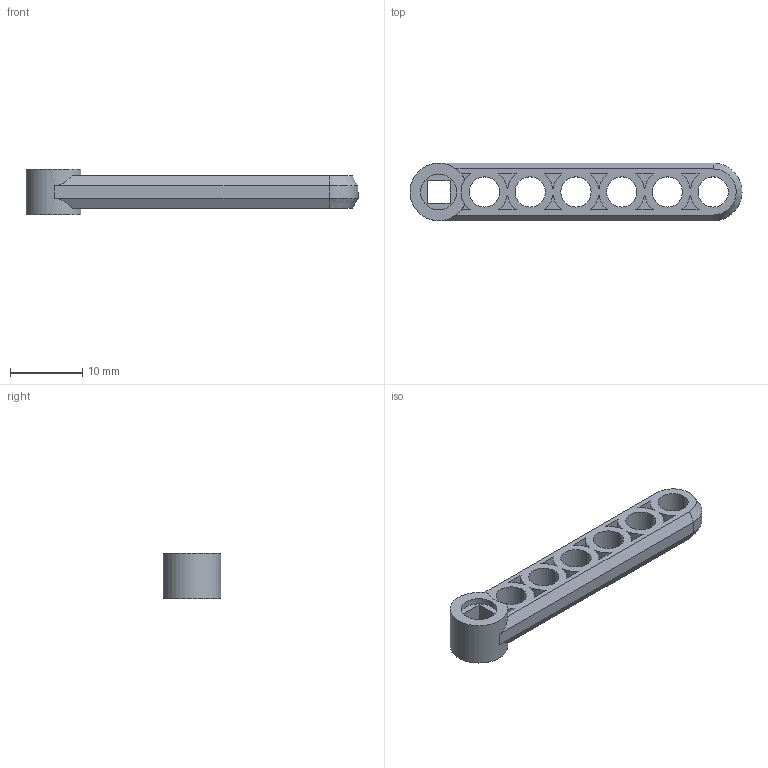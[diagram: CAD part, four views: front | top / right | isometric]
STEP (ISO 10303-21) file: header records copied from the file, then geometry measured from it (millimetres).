
FILE_DESCRIPTION (( 'STEP AP214' ), '1' );
FILE_NAME ('228-2500-1548.STEP', '2021-02-18T20:17:56', ( '' ), ( '' ), 'SwSTEP 2.0', 'SolidWorks 2019', '' );
FILE_SCHEMA (( 'AUTOMOTIVE_DESIGN' ));
Length unit declared in the file: millimetre
Products named in the file (1): 228-2500-1548
Bounding box: 46.08 x 8 x 6.35 mm (x, y, z)
Volume: 1094.2 mm3; surface area: 1622.1 mm2
Topology: 1 solids, 1 shells, 102 faces, 260 edges, 172 vertices
Faces by surface type: plane 54, cylinder 45, cone 3
Entity records: 3180 total; most frequent: DIRECTION 568, CARTESIAN_POINT 547, ORIENTED_EDGE 520, EDGE_CURVE 260, AXIS2_PLACEMENT_3D 209, VERTEX_POINT 172, LINE 150, VECTOR 150
